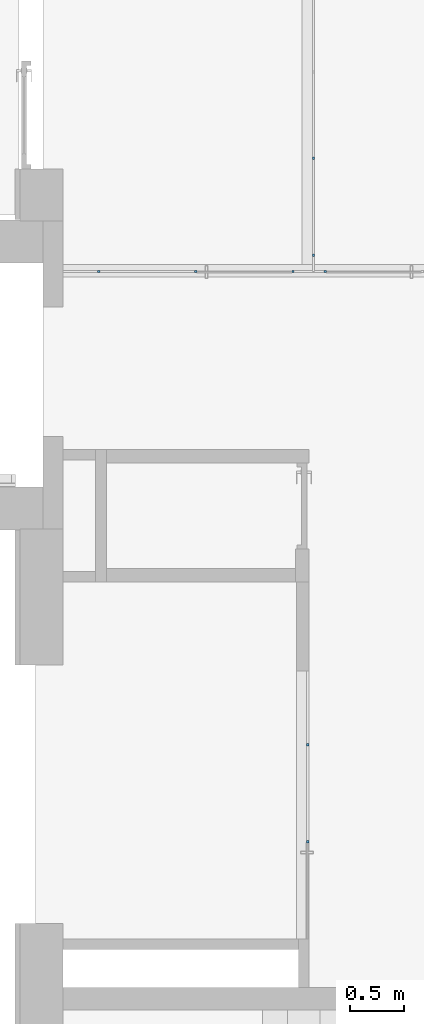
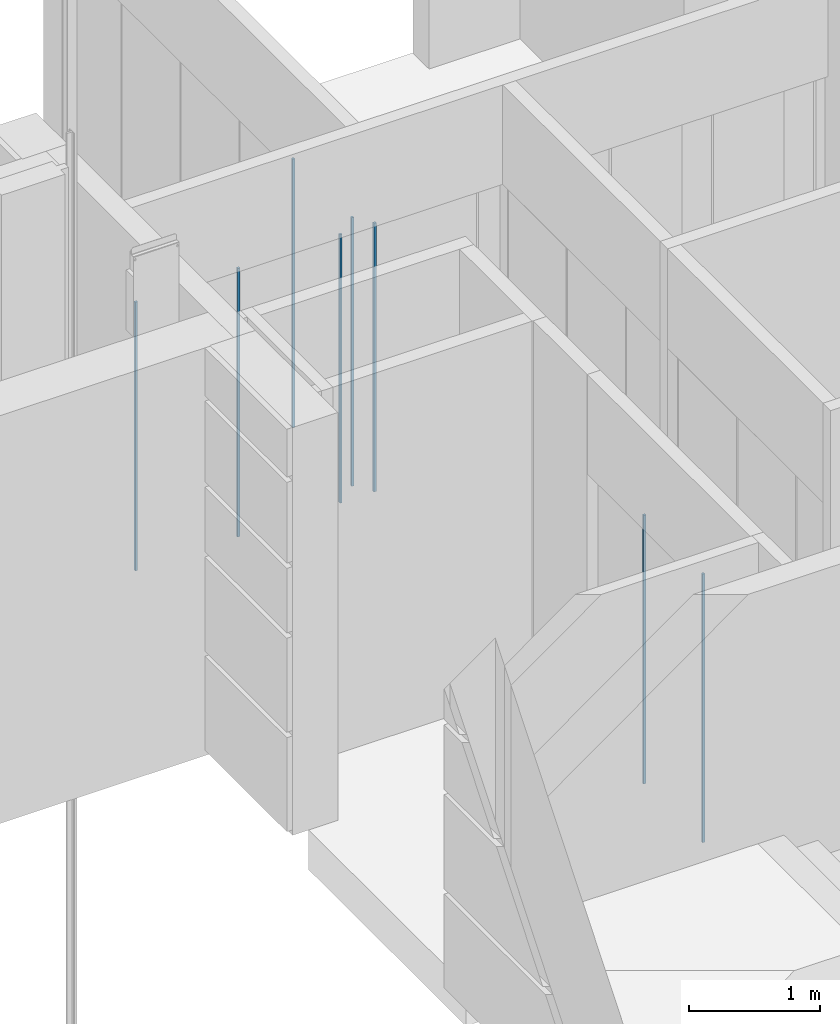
# One storey, part 1 of 14: 8 members, 3 elements without a shape of their own.
"""IFC2X3 building model written with IfcOpenShell, lengths in millimetres."""

from ifc_helpers import new_model, entity, si_unit, converted_unit, derived_unit, direction, frame, origin, origin_2d_with_axis, place, context, subcontext, project, spatial, rectangle, extrude, source, transform, mapped, material, type_object, type_shapes, element, aggregate, save


model = new_model("IFC2X3")

# Units and contexts
model_context = context("Model", 3, precision=0.01, world=origin(), true_north=direction((6.12303176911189e-17, 1.0)))
body_context = subcontext(model_context, "Body", "Model", "MODEL_VIEW")
ifc_project = project(units=[si_unit("LENGTHUNIT", "METRE", prefix="MILLI"), si_unit("AREAUNIT", "SQUARE_METRE"), si_unit("VOLUMEUNIT", "CUBIC_METRE"), converted_unit("PLANEANGLEUNIT", "DEGREE", entity("IfcRatioMeasure", 0.0174532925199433), si_unit("PLANEANGLEUNIT", "RADIAN"), dimensions=[0, 0, 0, 0, 0, 0, 0]), si_unit("MASSUNIT", "GRAM", prefix="KILO"), derived_unit("MASSDENSITYUNIT", [(si_unit("MASSUNIT", "GRAM", prefix="KILO"), 1), (si_unit("LENGTHUNIT", "METRE"), -3)]), si_unit("TIMEUNIT", "SECOND"), si_unit("FREQUENCYUNIT", "HERTZ"), si_unit("THERMODYNAMICTEMPERATUREUNIT", "DEGREE_CELSIUS"), derived_unit("THERMALTRANSMITTANCEUNIT", [(si_unit("MASSUNIT", "GRAM", prefix="KILO"), 1), (si_unit("THERMODYNAMICTEMPERATUREUNIT", "KELVIN"), -1), (si_unit("TIMEUNIT", "SECOND"), -3)]), derived_unit("VOLUMETRICFLOWRATEUNIT", [(si_unit("LENGTHUNIT", "METRE"), 3), (si_unit("TIMEUNIT", "SECOND"), -1)]), si_unit("ELECTRICCURRENTUNIT", "AMPERE"), si_unit("ELECTRICVOLTAGEUNIT", "VOLT"), si_unit("POWERUNIT", "WATT"), si_unit("FORCEUNIT", "NEWTON", prefix="KILO"), si_unit("ILLUMINANCEUNIT", "LUX"), si_unit("LUMINOUSFLUXUNIT", "LUMEN"), si_unit("LUMINOUSINTENSITYUNIT", "CANDELA"), derived_unit("USERDEFINED", [(si_unit("MASSUNIT", "GRAM", prefix="KILO"), -1), (si_unit("LENGTHUNIT", "METRE"), -2), (si_unit("TIMEUNIT", "SECOND"), 3), (si_unit("LUMINOUSFLUXUNIT", "LUMEN"), 1)]), derived_unit("LINEARVELOCITYUNIT", [(si_unit("LENGTHUNIT", "METRE"), 1), (si_unit("TIMEUNIT", "SECOND"), -1)]), si_unit("PRESSUREUNIT", "PASCAL"), derived_unit("USERDEFINED", [(si_unit("LENGTHUNIT", "METRE"), -2), (si_unit("MASSUNIT", "GRAM", prefix="KILO"), 1), (si_unit("TIMEUNIT", "SECOND"), -2)])], contexts=[model_context])

# Site, building, storey
site_placement = place(None, frame((-151.875543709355, 2715.0, 0.0)))
site = spatial("IfcSite", under=ifc_project, at=site_placement, Name="Surface", CompositionType="ELEMENT")
building_placement = place(site_placement, origin())
building = spatial("IfcBuilding", under=site, at=building_placement, CompositionType="ELEMENT")
storey_placement = place(building_placement, frame((0.0, 0.0, 3875.0)))
storey = spatial("IfcBuildingStorey", under=building, at=storey_placement, Name="uus 2 korrus", CompositionType="ELEMENT", Elevation=3875.00000000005)

# Curtain wall, members
curtain_wall_type_1 = type_object("IfcCurtainWallType", Name="Curtain Wall:Klaassein KLS-15", PredefinedType="NOTDEFINED")
curtain_wall_1_placement = place(storey_placement, frame((0.0, 0.0, -3875.0)))
curtain_wall_1 = element("IfcCurtainWall", 1, at=curtain_wall_1_placement, inside=storey, type_object=curtain_wall_type_1, Name="Curtain Wall:Klaassein KLS-15", ObjectType="Curtain Wall:Klaassein KLS-15")
ifc_material = material(Name="__Uks_hele tamm")
member_type_1 = type_object("IfcMemberType", Name="20 x 20mm", PredefinedType="MEMBER")
shared_shape_1 = source(origin(), body_context, "Body", "SweptSolid", [
    extrude(rectangle(XDim=20.0, YDim=20.0, at=origin_2d_with_axis()), frame((0.0, 0.0, -2500.0), z_axis=(0.0, 0.0, 1.0), x_axis=(0.0, -1.0, 0.0)), (0.0, 0.0, 1.0), 2500.00000000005),
])
type_shapes(member_type_1, [shared_shape_1])
member_1_placement = place(storey_placement, frame((34431.3161980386, 21659.9585633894, 0.0), z_axis=(0.0, 0.0, -1.0), x_axis=(1.0, 0.0, 0.0)))
member_1 = element("IfcMember", 2, at=member_1_placement, type_object=member_type_1, material=ifc_material, Name="Rectangular Mullion:20 x 20mm", ObjectType="20 x 20mm", context=body_context, shape_type="MappedRepresentation", body=[
    mapped(shared_shape_1, transform((0.0, 0.0, 0.0), scale=1.0)),
])
member_2_placement = place(storey_placement, frame((34131.3161980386, 21659.9585633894, 0.0), z_axis=(0.0, 0.0, -1.0), x_axis=(1.0, 0.0, 0.0)))
member_2 = element("IfcMember", 3, at=member_2_placement, type_object=member_type_1, material=ifc_material, Name="Rectangular Mullion:20 x 20mm", ObjectType="20 x 20mm", context=body_context, shape_type="MappedRepresentation", body=[
    mapped(shared_shape_1, transform((0.0, 0.0, 0.0), scale=1.0)),
])
member_3_placement = place(storey_placement, frame((33231.3161980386, 21659.9585633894, 0.0), z_axis=(0.0, 0.0, -1.0), x_axis=(1.0, 0.0, 0.0)))
member_3 = element("IfcMember", 4, at=member_3_placement, type_object=member_type_1, material=ifc_material, Name="Rectangular Mullion:20 x 20mm", ObjectType="20 x 20mm", context=body_context, shape_type="MappedRepresentation", body=[
    mapped(shared_shape_1, transform((0.0, 0.0, 0.0), scale=1.0)),
])
member_4_placement = place(storey_placement, frame((32331.3161980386, 21659.9585633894, 0.0), z_axis=(0.0, 0.0, -1.0), x_axis=(1.0, 0.0, 0.0)))
member_4 = element("IfcMember", 5, at=member_4_placement, type_object=member_type_1, material=ifc_material, Name="Rectangular Mullion:20 x 20mm", ObjectType="20 x 20mm", context=body_context, shape_type="MappedRepresentation", body=[
    mapped(shared_shape_1, transform((0.0, 0.0, 0.0), scale=1.0)),
])
aggregate(curtain_wall_1, [member_1, member_2, member_3, member_4])

curtain_wall_type_2 = type_object("IfcCurtainWallType", Name="Curtain Wall:Klaassein KLS-16", PredefinedType="NOTDEFINED")
curtain_wall_2_placement = place(storey_placement, frame((0.0, 0.0, -3875.0)))
curtain_wall_2 = element("IfcCurtainWall", 6, at=curtain_wall_2_placement, inside=storey, type_object=curtain_wall_type_2, Name="Curtain Wall:Klaassein KLS-16", ObjectType="Curtain Wall:Klaassein KLS-16")
member_5_placement = place(storey_placement, frame((34321.3161980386, 22710.0, 0.0), z_axis=(0.0, 0.0, -1.0), x_axis=(0.0, -1.0, 0.0)))
member_5 = element("IfcMember", 7, at=member_5_placement, type_object=member_type_1, material=ifc_material, Name="Rectangular Mullion:20 x 20mm", ObjectType="20 x 20mm", context=body_context, shape_type="MappedRepresentation", body=[
    mapped(shared_shape_1, transform((0.0, 0.0, 0.0), scale=1.0)),
])
member_6_placement = place(storey_placement, frame((34321.3161980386, 21810.0, 0.0), z_axis=(0.0, 0.0, -1.0), x_axis=(0.0, -1.0, 0.0)))
member_6 = element("IfcMember", 8, at=member_6_placement, type_object=member_type_1, material=ifc_material, Name="Rectangular Mullion:20 x 20mm", ObjectType="20 x 20mm", context=body_context, shape_type="MappedRepresentation", body=[
    mapped(shared_shape_1, transform((0.0, 0.0, 0.0), scale=1.0)),
])
aggregate(curtain_wall_2, [member_5, member_6])

curtain_wall_type_3 = type_object("IfcCurtainWallType", Name="Curtain Wall:Klaassein KLS-12", PredefinedType="NOTDEFINED")
curtain_wall_3_placement = place(storey_placement, frame((0.0, 0.0, -3875.0)))
curtain_wall_3 = element("IfcCurtainWall", 9, at=curtain_wall_3_placement, inside=storey, type_object=curtain_wall_type_3, Name="Curtain Wall:Klaassein KLS-12", ObjectType="Curtain Wall:Klaassein KLS-12")
member_type_2 = type_object("IfcMemberType", Name="20 x 20mm", PredefinedType="MEMBER")
shared_shape_2 = source(origin(), body_context, "Body", "SweptSolid", [
    extrude(rectangle(XDim=20.0, YDim=20.0, at=origin_2d_with_axis()), frame((0.0, 0.0, -2500.0), z_axis=(0.0, 0.0, 1.0), x_axis=(0.0, -1.0, 0.0)), (0.0, 0.0, 1.0), 2500.00000000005),
])
type_shapes(member_type_2, [shared_shape_2])
member_7_placement = place(storey_placement, frame((34270.014162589, 16370.0, 0.0), z_axis=(0.0, 0.0, -1.0), x_axis=(0.0, 1.0, 0.0)))
member_7 = element("IfcMember", 10, at=member_7_placement, type_object=member_type_2, material=ifc_material, Name="Rectangular Mullion:20 x 20mm", ObjectType="20 x 20mm", context=body_context, shape_type="MappedRepresentation", body=[
    mapped(shared_shape_2, transform((0.0, 0.0, 0.0), scale=1.0)),
])
member_8_placement = place(storey_placement, frame((34270.014162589, 17270.0, 0.0), z_axis=(0.0, 0.0, -1.0), x_axis=(0.0, 1.0, 0.0)))
member_8 = element("IfcMember", 11, at=member_8_placement, type_object=member_type_2, material=ifc_material, Name="Rectangular Mullion:20 x 20mm", ObjectType="20 x 20mm", context=body_context, shape_type="MappedRepresentation", body=[
    mapped(shared_shape_2, transform((0.0, 0.0, 0.0), scale=1.0)),
])
aggregate(curtain_wall_3, [member_7, member_8])

save(model, "model.ifc")
